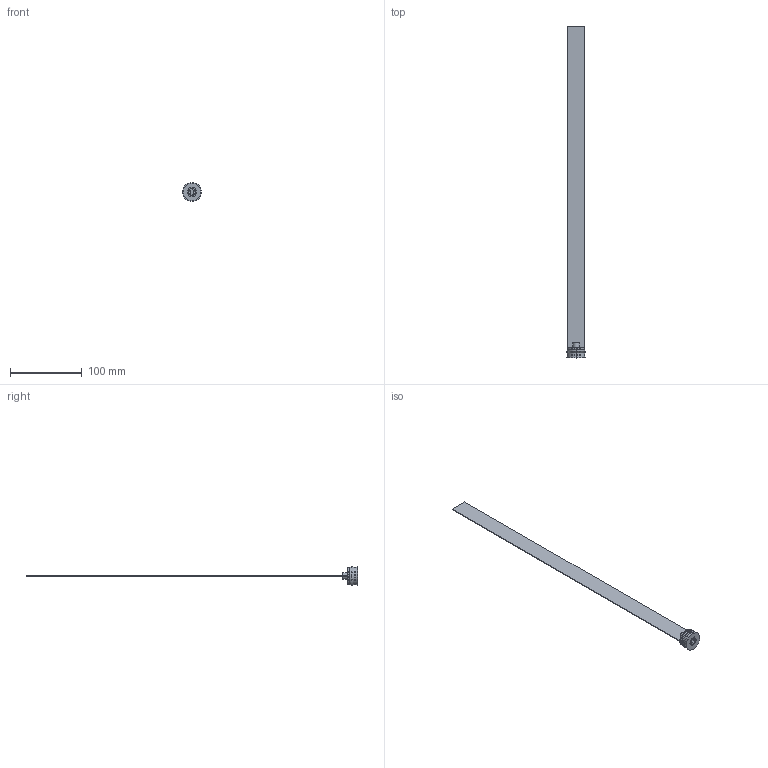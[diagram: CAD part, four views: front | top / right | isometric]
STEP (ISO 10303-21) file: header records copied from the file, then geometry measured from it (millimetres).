
FILE_DESCRIPTION (( 'STEP AP203' ), '1' );
FILE_NAME ('RL-25Fx450.STEP', '2015-12-04T07:21:39', ( 'Balzi' ), ( '' ), 'SwSTEP 2.0', 'SolidWorks 2015', '' );
FILE_SCHEMA (( 'CONFIG_CONTROL_DESIGN' ));
Length unit declared in the file: millimetre
Products named in the file (1): RL-25Fx450
Bounding box: 26.5 x 464 x 26.5 mm (x, y, z)
Volume: 18114.3 mm3; surface area: 26180.3 mm2
Topology: 1 solids, 1 shells, 75 faces, 177 edges, 109 vertices
Faces by surface type: plane 31, cone 19, cylinder 17, torus 8
Entity records: 2245 total; most frequent: CARTESIAN_POINT 412, DIRECTION 386, ORIENTED_EDGE 354, EDGE_CURVE 177, AXIS2_PLACEMENT_3D 147, VERTEX_POINT 109, VECTOR 92, LINE 92
